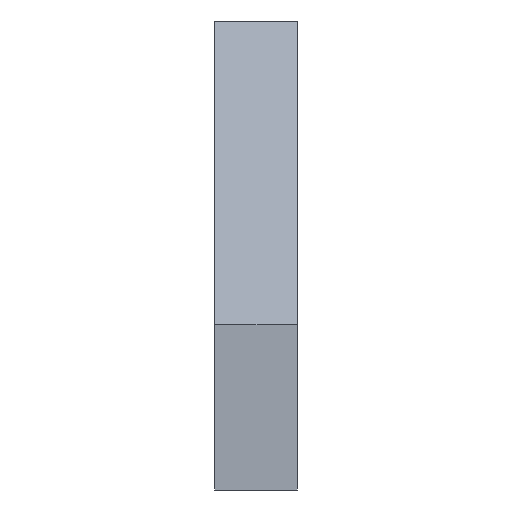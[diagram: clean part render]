
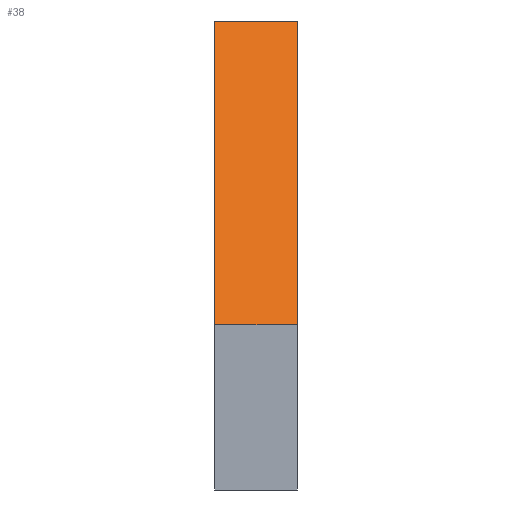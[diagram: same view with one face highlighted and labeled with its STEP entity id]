
A CAD part, left-side view. The second image highlights one B-rep face of the part: STEP entity #38.
In plain terms, the highlighted planar face has unit normal (-0.723, 0, 0.691).
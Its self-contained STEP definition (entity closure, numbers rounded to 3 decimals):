
#38=ADVANCED_FACE('',(#65),#1012,.T.);
#65=FACE_OUTER_BOUND('',#92,.T.);
#92=EDGE_LOOP('',(#141,#142,#143,#144));
#141=ORIENTED_EDGE('',*,*,#703,.T.);
#142=ORIENTED_EDGE('',*,*,#704,.T.);
#143=ORIENTED_EDGE('',*,*,#705,.T.);
#144=ORIENTED_EDGE('',*,*,#701,.F.);
#328=PCURVE('',#1011,#478);
#331=PCURVE('',#1012,#481);
#332=PCURVE('',#1012,#482);
#333=PCURVE('',#1012,#483);
#334=PCURVE('',#1012,#484);
#338=PCURVE('',#1013,#488);
#405=PCURVE('',#1025,#555);
#428=PCURVE('',#1026,#578);
#478=DEFINITIONAL_REPRESENTATION('',(#790),#1851);
#481=DEFINITIONAL_REPRESENTATION('',(#795),#1851);
#482=DEFINITIONAL_REPRESENTATION('',(#797),#1851);
#483=DEFINITIONAL_REPRESENTATION('',(#799),#1851);
#484=DEFINITIONAL_REPRESENTATION('',(#800),#1851);
#488=DEFINITIONAL_REPRESENTATION('',(#807),#1851);
#555=DEFINITIONAL_REPRESENTATION('',(#906),#1851);
#578=DEFINITIONAL_REPRESENTATION('',(#921),#1851);
#626=SURFACE_CURVE('',#789,(#328,#334),.PCURVE_S1.);
#628=SURFACE_CURVE('',#794,(#331,#405),.PCURVE_S1.);
#629=SURFACE_CURVE('',#796,(#332,#338),.PCURVE_S1.);
#630=SURFACE_CURVE('',#798,(#333,#428),.PCURVE_S1.);
#701=EDGE_CURVE('',#958,#959,#626,.T.);
#703=EDGE_CURVE('',#958,#960,#628,.T.);
#704=EDGE_CURVE('',#960,#961,#629,.T.);
#705=EDGE_CURVE('',#961,#959,#630,.T.);
#789=B_SPLINE_CURVE_WITH_KNOTS('',1,(#1352,#1353),.UNSPECIFIED.,.F.,.F.,
(2,2),(0.,6.),.UNSPECIFIED.);
#790=B_SPLINE_CURVE_WITH_KNOTS('',1,(#1354,#1355),.UNSPECIFIED.,.F.,.F.,
(2,2),(0.,6.),.UNSPECIFIED.);
#794=B_SPLINE_CURVE_WITH_KNOTS('',1,(#1362,#1363),.UNSPECIFIED.,.F.,.F.,
(2,2),(10.,11.),.UNSPECIFIED.);
#795=B_SPLINE_CURVE_WITH_KNOTS('',1,(#1364,#1365),.UNSPECIFIED.,.F.,.F.,
(2,2),(10.,11.),.UNSPECIFIED.);
#796=B_SPLINE_CURVE_WITH_KNOTS('',1,(#1366,#1367),.UNSPECIFIED.,.F.,.F.,
(2,2),(0.,6.),.UNSPECIFIED.);
#797=B_SPLINE_CURVE_WITH_KNOTS('',1,(#1368,#1369),.UNSPECIFIED.,.F.,.F.,
(2,2),(0.,6.),.UNSPECIFIED.);
#798=B_SPLINE_CURVE_WITH_KNOTS('',1,(#1370,#1371),.UNSPECIFIED.,.F.,.F.,
(2,2),(-11.,-10.),.UNSPECIFIED.);
#799=B_SPLINE_CURVE_WITH_KNOTS('',1,(#1372,#1373),.UNSPECIFIED.,.F.,.F.,
(2,2),(-11.,-10.),.UNSPECIFIED.);
#800=B_SPLINE_CURVE_WITH_KNOTS('',1,(#1374,#1375),.UNSPECIFIED.,.F.,.F.,
(2,2),(0.,6.),.UNSPECIFIED.);
#807=B_SPLINE_CURVE_WITH_KNOTS('',1,(#1388,#1389),.UNSPECIFIED.,.F.,.F.,
(2,2),(0.,6.),.UNSPECIFIED.);
#906=B_SPLINE_CURVE_WITH_KNOTS('',1,(#1642,#1643),.UNSPECIFIED.,.F.,.F.,
(2,2),(10.,11.),.UNSPECIFIED.);
#921=B_SPLINE_CURVE_WITH_KNOTS('',1,(#1732,#1733),.UNSPECIFIED.,.F.,.F.,
(2,2),(-11.,-10.),.UNSPECIFIED.);
#958=VERTEX_POINT('',#1262);
#959=VERTEX_POINT('',#1263);
#960=VERTEX_POINT('',#1264);
#961=VERTEX_POINT('',#1265);
#1011=PLANE('',#1050);
#1012=PLANE('',#1051);
#1013=PLANE('',#1052);
#1025=PLANE('',#1064);
#1026=PLANE('',#1065);
#1050=AXIS2_PLACEMENT_3D('',#1094,#1072,$);
#1051=AXIS2_PLACEMENT_3D('',#1095,#1073,$);
#1052=AXIS2_PLACEMENT_3D('',#1096,#1074,$);
#1064=AXIS2_PLACEMENT_3D('',#1180,#1086,$);
#1065=AXIS2_PLACEMENT_3D('',#1181,#1087,$);
#1072=DIRECTION('',(-1.,0.,0.));
#1073=DIRECTION('',(-0.723,0.,0.69));
#1074=DIRECTION('',(0.,0.,1.));
#1086=DIRECTION('',(0.,-1.,0.));
#1087=DIRECTION('',(0.,1.,0.));
#1094=CARTESIAN_POINT('',(-511.,85.,26.));
#1095=CARTESIAN_POINT('',(-511.,85.,38.));
#1096=CARTESIAN_POINT('',(-490.,85.,60.));
#1180=CARTESIAN_POINT('',(-522.875,85.,64.25));
#1181=CARTESIAN_POINT('',(-522.875,91.,64.25));
#1262=CARTESIAN_POINT('',(-511.,85.,38.));
#1263=CARTESIAN_POINT('',(-511.,91.,38.));
#1264=CARTESIAN_POINT('',(-490.,85.,60.));
#1265=CARTESIAN_POINT('',(-490.,91.,60.));
#1352=CARTESIAN_POINT('',(-511.,85.,38.));
#1353=CARTESIAN_POINT('',(-511.,91.,38.));
#1354=CARTESIAN_POINT('',(10.,0.));
#1355=CARTESIAN_POINT('',(10.,6.));
#1362=CARTESIAN_POINT('',(-511.,85.,38.));
#1363=CARTESIAN_POINT('',(-490.,85.,60.));
#1364=CARTESIAN_POINT('',(10.,0.));
#1365=CARTESIAN_POINT('',(11.,0.));
#1366=CARTESIAN_POINT('',(-490.,85.,60.));
#1367=CARTESIAN_POINT('',(-490.,91.,60.));
#1368=CARTESIAN_POINT('',(11.,0.));
#1369=CARTESIAN_POINT('',(11.,6.));
#1370=CARTESIAN_POINT('',(-490.,91.,60.));
#1371=CARTESIAN_POINT('',(-511.,91.,38.));
#1372=CARTESIAN_POINT('',(11.,6.));
#1373=CARTESIAN_POINT('',(10.,6.));
#1374=CARTESIAN_POINT('',(10.,0.));
#1375=CARTESIAN_POINT('',(10.,6.));
#1388=CARTESIAN_POINT('',(11.,0.));
#1389=CARTESIAN_POINT('',(11.,6.));
#1642=CARTESIAN_POINT('',(-6.,-46.));
#1643=CARTESIAN_POINT('',(-28.,-25.));
#1732=CARTESIAN_POINT('',(-25.,-28.));
#1733=CARTESIAN_POINT('',(-46.,-6.));
#1851=(
GEOMETRIC_REPRESENTATION_CONTEXT(2)
PARAMETRIC_REPRESENTATION_CONTEXT()
REPRESENTATION_CONTEXT('pspace','')
);
